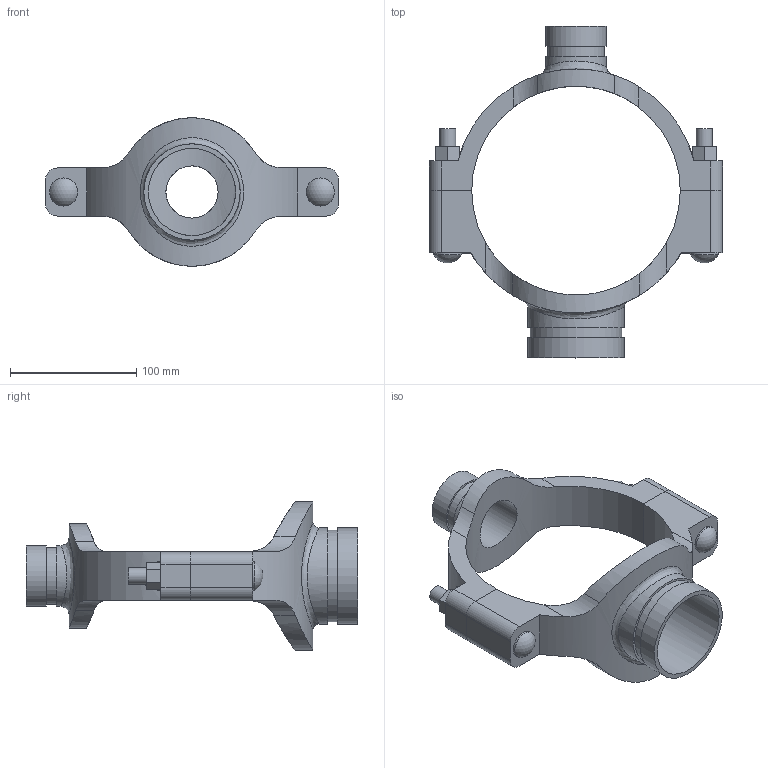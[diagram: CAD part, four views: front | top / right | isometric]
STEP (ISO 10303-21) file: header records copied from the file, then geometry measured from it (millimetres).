
FILE_DESCRIPTION(/* description */ ('VIC MECH-T BRANCH OUTLET CROSS STYLE 920N (GRVD)','CAx-IF Rec.Pracs.---Representation and Presentation of Product Manufacturing Information (PMI)---4.0---2014-10-13'),/* implementation_level */ '2;1');
FILE_NAME(/* name */ 'C:\Users\Vjadhav\AppData\Roaming\Autodesk\ApplicationPlugins\Back Up\Victaulic_IPS_Mechanical-Cross Outlet_Style 920N (OGS)\Victaulic_IPS_Mechanical-Cross Outlet_06.0 (165.1)x01.5x02.5 (76.1) (150x40x65).stp',/* time_stamp */ '2020-08-06T19:45:13+05:00',/* author */ ('Vjadhav'),/* organization */ ('Victaulic'),/* preprocessor_version */ 'ST-DEVELOPER v17.2',/* originating_system */ 'Autodesk Inventor 2019',/* authorisation */ '');
FILE_SCHEMA (('AP242_MANAGED_MODEL_BASED_3D_ENGINEERING_MIM_LF { 1 0 10303 442 1 1 4 }'));
Length unit declared in the file: inch
Products named in the file (3): 920NG-06.0 (165.1)x01.5x02.5 (76.1); 920NG-06.0 (165.1)x01.5x02.5; 920G-06.0 (165.1)x02.5 (76.1)
Assembly tree (2 placements, depth 2):
  920NG-06.0 (165.1)x01.5x02.5 (76.1)
    920NG-06.0 (165.1)x01.5x02.5
    920G-06.0 (165.1)x02.5 (76.1)
Bounding box: 231.9 x 262.64 x 117.6 mm (x, y, z)
Volume: 513859.2 mm3; surface area: 133892 mm2
Topology: 2 solids, 2 shells, 106 faces, 268 edges, 182 vertices
Faces by surface type: plane 54, cylinder 48, sphere 2, bspline 2
Full cylindrical faces by diameter (mm): 12.7 x4, 22.225 x2, 41.275 x1, 45.085 x1, 48.26 x2, 68.986 x1, 72.263 x1, 76.2 x2
Entity records: 4314 total; most frequent: CARTESIAN_POINT 1487, DIRECTION 542, ORIENTED_EDGE 536, EDGE_CURVE 268, AXIS2_PLACEMENT_3D 197, VERTEX_POINT 182, LINE 148, VECTOR 148
